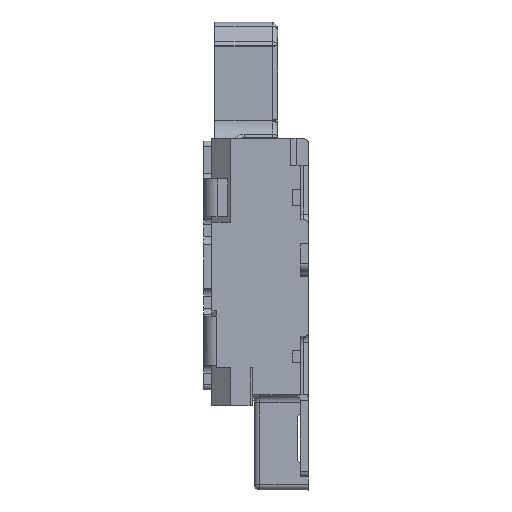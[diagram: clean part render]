
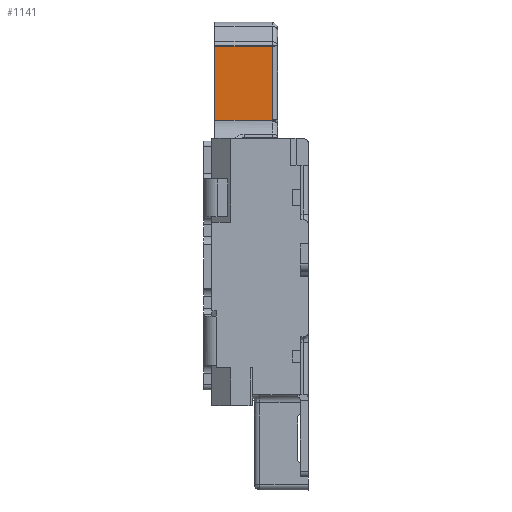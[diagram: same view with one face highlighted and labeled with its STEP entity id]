
A CAD part, left-side view. The second image highlights one B-rep face of the part: STEP entity #1141.
In plain terms, the highlighted planar face has unit normal (-0.999, 0, -0.037).
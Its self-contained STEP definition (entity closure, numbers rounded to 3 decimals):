
#971 = EDGE_CURVE ( 'NONE', #1055, #972, #5664, .T. ) ;
#972 = VERTEX_POINT ( 'NONE', #5656 ) ;
#1013 = EDGE_CURVE ( 'NONE', #972, #3521, #5742, .T. ) ;
#1018 = EDGE_CURVE ( 'NONE', #3521, #1019, #5777, .T. ) ;
#1019 = VERTEX_POINT ( 'NONE', #5769 ) ;
#1055 = VERTEX_POINT ( 'NONE', #5867 ) ;
#1099 = EDGE_CURVE ( 'NONE', #1019, #1100, #6024, .T. ) ;
#1100 = VERTEX_POINT ( 'NONE', #6016 ) ;
#1141 = ADVANCED_FACE ( 'NONE', ( #6152 ), #6191, .F. ) ;
#1142 = EDGE_LOOP ( 'NONE', ( #1143, #1144, #1145, #1146, #1147 ) ) ;
#1143 = ORIENTED_EDGE ( 'NONE', *, *, #1099, .F. ) ;
#1144 = ORIENTED_EDGE ( 'NONE', *, *, #1018, .F. ) ;
#1145 = ORIENTED_EDGE ( 'NONE', *, *, #1013, .F. ) ;
#1146 = ORIENTED_EDGE ( 'NONE', *, *, #971, .F. ) ;
#1147 = ORIENTED_EDGE ( 'NONE', *, *, #1148, .F. ) ;
#1148 = EDGE_CURVE ( 'NONE', #1100, #1055, #6185, .T. ) ;
#3521 = VERTEX_POINT ( 'NONE', #14587 ) ;
#5656 = CARTESIAN_POINT ( 'NONE',  ( -0.103, 1.73, 4.056 ) ) ;
#5657 = DIRECTION ( 'NONE',  ( -0.037, 0., 0.999 ) ) ;
#5658 = VECTOR ( 'NONE', #5657, 1000. ) ;
#5659 = CARTESIAN_POINT ( 'NONE',  ( -0.078, 1.73, 3.372 ) ) ;
#5664 = LINE ( 'NONE', #5659, #5658 ) ;
#5741 = CARTESIAN_POINT ( 'NONE',  ( -0.103, 1.2, 4.056 ) ) ;
#5742 = LINE ( 'NONE', #5741, #5795 ) ;
#5769 = CARTESIAN_POINT ( 'NONE',  ( -0.053, 0.67, 2.698 ) ) ;
#5770 = DIRECTION ( 'NONE',  ( 0.037, 0., -0.999 ) ) ;
#5771 = VECTOR ( 'NONE', #5770, 1000. ) ;
#5772 = CARTESIAN_POINT ( 'NONE',  ( -0.078, 0.67, 3.372 ) ) ;
#5777 = LINE ( 'NONE', #5772, #5771 ) ;
#5794 = DIRECTION ( 'NONE',  ( 0., -1., 0. ) ) ;
#5795 = VECTOR ( 'NONE', #5794, 1000. ) ;
#5867 = CARTESIAN_POINT ( 'NONE',  ( -0.052, 1.73, 2.688 ) ) ;
#6016 = CARTESIAN_POINT ( 'NONE',  ( -0.052, 0.67, 2.688 ) ) ;
#6017 = DIRECTION ( 'NONE',  ( 0.037, 0., -0.999 ) ) ;
#6018 = VECTOR ( 'NONE', #6017, 1000. ) ;
#6019 = CARTESIAN_POINT ( 'NONE',  ( -0.078, 0.67, 3.372 ) ) ;
#6024 = LINE ( 'NONE', #6019, #6018 ) ;
#6152 = FACE_OUTER_BOUND ( 'NONE', #1142, .T. ) ;
#6182 = DIRECTION ( 'NONE',  ( 0., 1., 0. ) ) ;
#6183 = VECTOR ( 'NONE', #6182, 1000. ) ;
#6184 = CARTESIAN_POINT ( 'NONE',  ( -0.052, 1.2, 2.688 ) ) ;
#6185 = LINE ( 'NONE', #6184, #6183 ) ;
#6187 = DIRECTION ( 'NONE',  ( -0.037, 0., 0.999 ) ) ;
#6188 = DIRECTION ( 'NONE',  ( 0.999, 0., 0.037 ) ) ;
#6189 = CARTESIAN_POINT ( 'NONE',  ( -0.052, 1.73, 2.688 ) ) ;
#6190 = AXIS2_PLACEMENT_3D ( 'NONE', #6189, #6188, #6187 ) ;
#6191 = PLANE ( 'NONE',  #6190 ) ;
#14587 = CARTESIAN_POINT ( 'NONE',  ( -0.103, 0.67, 4.056 ) ) ;
